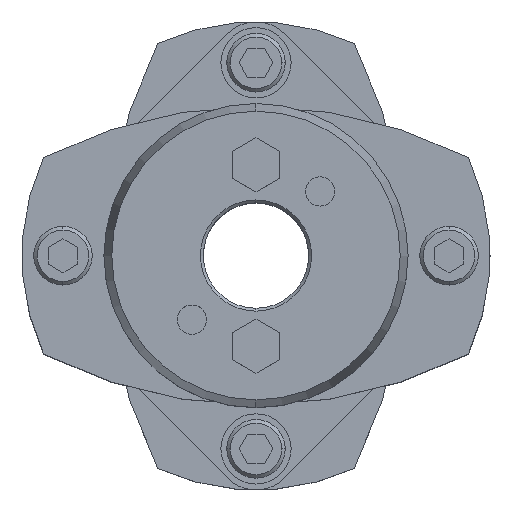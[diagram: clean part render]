
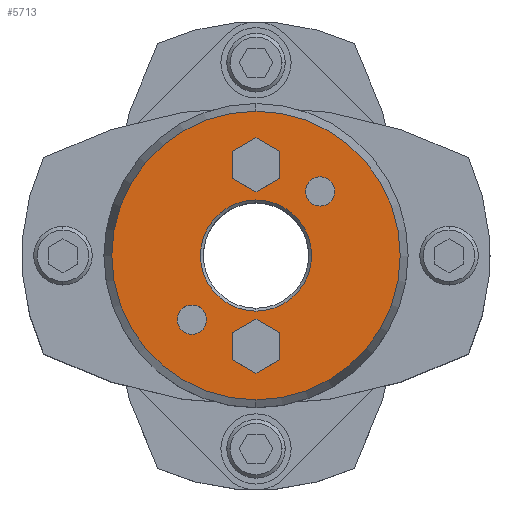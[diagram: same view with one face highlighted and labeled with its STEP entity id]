
A CAD part, top view. The second image highlights one B-rep face of the part: STEP entity #5713.
In plain terms, the highlighted planar face has unit normal (0, 0, 1).
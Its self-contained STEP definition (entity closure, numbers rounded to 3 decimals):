
#1677=CARTESIAN_POINT('',(0.,9.5,45.25));
#1678=VERTEX_POINT('',#1677);
#1694=CARTESIAN_POINT('',(0.,-9.5,45.25));
#1695=VERTEX_POINT('',#1694);
#1702=CARTESIAN_POINT('',(0.,0.,45.25));
#1703=DIRECTION('',(0.0,0.0,1.0));
#1704=DIRECTION('',(0.0,1.0,0.0));
#1705=AXIS2_PLACEMENT_3D('',#1702,#1703,#1704);
#1706=CIRCLE('',#1705,9.5);
#1707=EDGE_CURVE('',#1695,#1678,#1706,.T.);
#1865=CARTESIAN_POINT('',(0.,-24.66,45.25));
#1866=VERTEX_POINT('',#1865);
#1873=CARTESIAN_POINT('',(0.,24.66,45.25));
#1874=VERTEX_POINT('',#1873);
#1875=CARTESIAN_POINT('',(0.,0.,45.25));
#1876=DIRECTION('',(0.0,0.0,-1.0));
#1877=DIRECTION('',(0.0,-1.0,0.0));
#1878=AXIS2_PLACEMENT_3D('',#1875,#1876,#1877);
#1879=CIRCLE('',#1878,24.66);
#1880=EDGE_CURVE('',#1866,#1874,#1879,.T.);
#1975=CARTESIAN_POINT('',(10.96,13.46,45.25));
#1976=VERTEX_POINT('',#1975);
#1992=CARTESIAN_POINT('',(10.96,8.46,45.25));
#1993=VERTEX_POINT('',#1992);
#2000=CARTESIAN_POINT('',(10.96,10.96,45.25));
#2001=DIRECTION('',(0.0,0.0,-1.0));
#2002=DIRECTION('',(0.0,1.0,0.0));
#2003=AXIS2_PLACEMENT_3D('',#2000,#2001,#2002);
#2004=CIRCLE('',#2003,2.5);
#2005=EDGE_CURVE('',#1976,#1993,#2004,.T.);
#2017=CARTESIAN_POINT('',(-10.96,-8.46,45.25));
#2018=VERTEX_POINT('',#2017);
#2034=CARTESIAN_POINT('',(-10.96,-13.46,45.25));
#2035=VERTEX_POINT('',#2034);
#2042=CARTESIAN_POINT('',(-10.96,-10.96,45.25));
#2043=DIRECTION('',(0.0,0.0,-1.0));
#2044=DIRECTION('',(0.0,1.0,0.0));
#2045=AXIS2_PLACEMENT_3D('',#2042,#2043,#2044);
#2046=CIRCLE('',#2045,2.5);
#2047=EDGE_CURVE('',#2018,#2035,#2046,.T.);
#4957=CARTESIAN_POINT('',(0.,-10.881,45.25));
#4958=VERTEX_POINT('',#4957);
#4965=CARTESIAN_POINT('',(-4.,-13.191,45.25));
#4966=VERTEX_POINT('',#4965);
#4967=CARTESIAN_POINT('',(-4.,-13.191,45.25));
#4968=DIRECTION('',(0.866,0.5,0.0));
#4969=VECTOR('',#4968,4.619);
#4970=LINE('',#4967,#4969);
#4971=EDGE_CURVE('',#4966,#4958,#4970,.T.);
#4995=CARTESIAN_POINT('',(4.,-13.191,45.25));
#4996=VERTEX_POINT('',#4995);
#5003=CARTESIAN_POINT('',(0.,-10.881,45.25));
#5004=DIRECTION('',(0.866,-0.5,0.0));
#5005=VECTOR('',#5004,4.619);
#5006=LINE('',#5003,#5005);
#5007=EDGE_CURVE('',#4958,#4996,#5006,.T.);
#5026=CARTESIAN_POINT('',(4.,-17.809,45.25));
#5027=VERTEX_POINT('',#5026);
#5034=CARTESIAN_POINT('',(4.,-13.191,45.25));
#5035=DIRECTION('',(0.0,-1.0,0.0));
#5036=VECTOR('',#5035,4.619);
#5037=LINE('',#5034,#5036);
#5038=EDGE_CURVE('',#4996,#5027,#5037,.T.);
#5057=CARTESIAN_POINT('',(0.,-20.119,45.25));
#5058=VERTEX_POINT('',#5057);
#5065=CARTESIAN_POINT('',(4.,-17.809,45.25));
#5066=DIRECTION('',(-0.866,-0.5,0.0));
#5067=VECTOR('',#5066,4.619);
#5068=LINE('',#5065,#5067);
#5069=EDGE_CURVE('',#5027,#5058,#5068,.T.);
#5088=CARTESIAN_POINT('',(-4.,-17.809,45.25));
#5089=VERTEX_POINT('',#5088);
#5096=CARTESIAN_POINT('',(0.,-20.119,45.25));
#5097=DIRECTION('',(-0.866,0.5,0.0));
#5098=VECTOR('',#5097,4.619);
#5099=LINE('',#5096,#5098);
#5100=EDGE_CURVE('',#5058,#5089,#5099,.T.);
#5118=CARTESIAN_POINT('',(-4.,-17.809,45.25));
#5119=DIRECTION('',(0.0,1.0,0.0));
#5120=VECTOR('',#5119,4.619);
#5121=LINE('',#5118,#5120);
#5122=EDGE_CURVE('',#5089,#4966,#5121,.T.);
#5157=CARTESIAN_POINT('',(0.,20.119,45.25));
#5158=VERTEX_POINT('',#5157);
#5165=CARTESIAN_POINT('',(-4.,17.809,45.25));
#5166=VERTEX_POINT('',#5165);
#5167=CARTESIAN_POINT('',(-4.,17.809,45.25));
#5168=DIRECTION('',(0.866,0.5,0.0));
#5169=VECTOR('',#5168,4.619);
#5170=LINE('',#5167,#5169);
#5171=EDGE_CURVE('',#5166,#5158,#5170,.T.);
#5195=CARTESIAN_POINT('',(4.,17.809,45.25));
#5196=VERTEX_POINT('',#5195);
#5203=CARTESIAN_POINT('',(0.,20.119,45.25));
#5204=DIRECTION('',(0.866,-0.5,0.0));
#5205=VECTOR('',#5204,4.619);
#5206=LINE('',#5203,#5205);
#5207=EDGE_CURVE('',#5158,#5196,#5206,.T.);
#5226=CARTESIAN_POINT('',(4.,13.191,45.25));
#5227=VERTEX_POINT('',#5226);
#5234=CARTESIAN_POINT('',(4.,17.809,45.25));
#5235=DIRECTION('',(0.0,-1.0,0.0));
#5236=VECTOR('',#5235,4.619);
#5237=LINE('',#5234,#5236);
#5238=EDGE_CURVE('',#5196,#5227,#5237,.T.);
#5257=CARTESIAN_POINT('',(0.,10.881,45.25));
#5258=VERTEX_POINT('',#5257);
#5265=CARTESIAN_POINT('',(4.,13.191,45.25));
#5266=DIRECTION('',(-0.866,-0.5,0.0));
#5267=VECTOR('',#5266,4.619);
#5268=LINE('',#5265,#5267);
#5269=EDGE_CURVE('',#5227,#5258,#5268,.T.);
#5288=CARTESIAN_POINT('',(-4.,13.191,45.25));
#5289=VERTEX_POINT('',#5288);
#5296=CARTESIAN_POINT('',(0.,10.881,45.25));
#5297=DIRECTION('',(-0.866,0.5,0.0));
#5298=VECTOR('',#5297,4.619);
#5299=LINE('',#5296,#5298);
#5300=EDGE_CURVE('',#5258,#5289,#5299,.T.);
#5318=CARTESIAN_POINT('',(-4.,13.191,45.25));
#5319=DIRECTION('',(0.0,1.0,0.0));
#5320=VECTOR('',#5319,4.619);
#5321=LINE('',#5318,#5320);
#5322=EDGE_CURVE('',#5289,#5166,#5321,.T.);
#5348=CARTESIAN_POINT('',(-10.96,-10.96,45.25));
#5349=DIRECTION('',(0.0,0.0,-1.0));
#5350=DIRECTION('',(0.0,1.0,0.0));
#5351=AXIS2_PLACEMENT_3D('',#5348,#5349,#5350);
#5352=CIRCLE('',#5351,2.5);
#5353=EDGE_CURVE('',#2035,#2018,#5352,.T.);
#5382=CARTESIAN_POINT('',(10.96,10.96,45.25));
#5383=DIRECTION('',(0.0,0.0,-1.0));
#5384=DIRECTION('',(0.0,1.0,0.0));
#5385=AXIS2_PLACEMENT_3D('',#5382,#5383,#5384);
#5386=CIRCLE('',#5385,2.5);
#5387=EDGE_CURVE('',#1993,#1976,#5386,.T.);
#5660=CARTESIAN_POINT('',(0.,0.,45.25));
#5661=DIRECTION('',(0.0,0.0,-1.0));
#5662=DIRECTION('',(0.0,-1.0,0.0));
#5663=AXIS2_PLACEMENT_3D('',#5660,#5661,#5662);
#5664=CIRCLE('',#5663,24.66);
#5665=EDGE_CURVE('',#1874,#1866,#5664,.T.);
#5670=CARTESIAN_POINT('',(0.,2.364,45.25));
#5671=DIRECTION('',(0.0,0.0,1.0));
#5672=DIRECTION('',(0.0,1.0,0.0));
#5673=AXIS2_PLACEMENT_3D('',#5670,#5671,#5672);
#5674=PLANE('',#5673);
#5675=ORIENTED_EDGE('',*,*,#5665,.F.);
#5676=ORIENTED_EDGE('',*,*,#1880,.F.);
#5677=EDGE_LOOP('',(#5675,#5676));
#5678=FACE_OUTER_BOUND('',#5677,.T.);
#5679=ORIENTED_EDGE('',*,*,#4971,.T.);
#5680=ORIENTED_EDGE('',*,*,#5007,.T.);
#5681=ORIENTED_EDGE('',*,*,#5038,.T.);
#5682=ORIENTED_EDGE('',*,*,#5069,.T.);
#5683=ORIENTED_EDGE('',*,*,#5100,.T.);
#5684=ORIENTED_EDGE('',*,*,#5122,.T.);
#5685=EDGE_LOOP('',(#5679,#5680,#5681,#5682,#5683,#5684));
#5686=FACE_BOUND('',#5685,.T.);
#5687=ORIENTED_EDGE('',*,*,#5171,.T.);
#5688=ORIENTED_EDGE('',*,*,#5207,.T.);
#5689=ORIENTED_EDGE('',*,*,#5238,.T.);
#5690=ORIENTED_EDGE('',*,*,#5269,.T.);
#5691=ORIENTED_EDGE('',*,*,#5300,.T.);
#5692=ORIENTED_EDGE('',*,*,#5322,.T.);
#5693=EDGE_LOOP('',(#5687,#5688,#5689,#5690,#5691,#5692));
#5694=FACE_BOUND('',#5693,.T.);
#5695=ORIENTED_EDGE('',*,*,#2047,.T.);
#5696=ORIENTED_EDGE('',*,*,#5353,.T.);
#5697=EDGE_LOOP('',(#5695,#5696));
#5698=FACE_BOUND('',#5697,.T.);
#5699=ORIENTED_EDGE('',*,*,#2005,.T.);
#5700=ORIENTED_EDGE('',*,*,#5387,.T.);
#5701=EDGE_LOOP('',(#5699,#5700));
#5702=FACE_BOUND('',#5701,.T.);
#5703=ORIENTED_EDGE('',*,*,#1707,.F.);
#5704=CARTESIAN_POINT('',(0.,0.,45.25));
#5705=DIRECTION('',(0.0,0.0,1.0));
#5706=DIRECTION('',(0.0,1.0,0.0));
#5707=AXIS2_PLACEMENT_3D('',#5704,#5705,#5706);
#5708=CIRCLE('',#5707,9.5);
#5709=EDGE_CURVE('',#1678,#1695,#5708,.T.);
#5710=ORIENTED_EDGE('',*,*,#5709,.F.);
#5711=EDGE_LOOP('',(#5703,#5710));
#5712=FACE_BOUND('',#5711,.T.);
#5713=ADVANCED_FACE('',(#5678,#5686,#5694,#5698,#5702,#5712),#5674,.T.);
